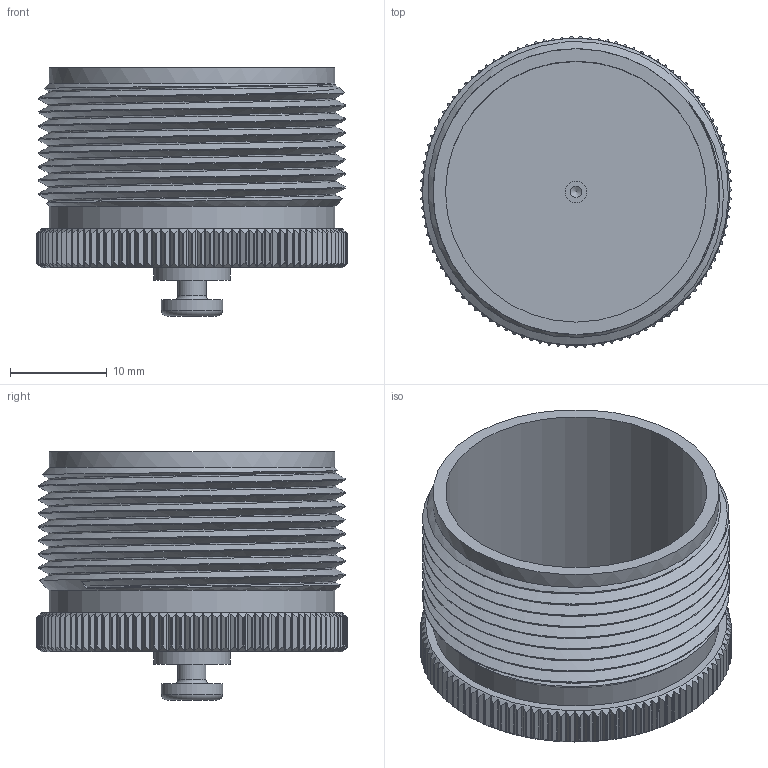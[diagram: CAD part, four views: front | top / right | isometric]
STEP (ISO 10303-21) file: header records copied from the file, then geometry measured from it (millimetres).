
FILE_DESCRIPTION (( 'STEP AP203' ), '1' );
FILE_NAME ('DMS25042-20D (without chain).STEP', '2020-03-09T07:18:39', ( '' ), ( '' ), 'SwSTEP 2.0', 'SolidWorks 2018', '' );
FILE_SCHEMA (( 'CONFIG_CONTROL_DESIGN' ));
Length unit declared in the file: millimetre
Products named in the file (1): DMS25042-20D (without chain)
Bounding box: 32.15 x 32.14 x 25.64 mm (x, y, z)
Volume: 4308.7 mm3; surface area: 6313 mm2
Topology: 1 solids, 1 shells, 670 faces, 1982 edges, 1320 vertices
Faces by surface type: cylinder 437, plane 223, cone 5, bspline 3, torus 2
Full cylindrical faces by diameter (mm): 1.2 x1, 2.23 x1, 2.9 x1, 6.35 x1, 7.94 x1, 26.98 x1, 29.55 x2
Entity records: 29412 total; most frequent: CARTESIAN_POINT 13462, ORIENTED_EDGE 3922, DIRECTION 2450, EDGE_CURVE 1961, VERTEX_POINT 1314, B_SPLINE_CURVE_WITH_KNOTS 1079, AXIS2_PLACEMENT_3D 904, EDGE_LOOP 691
